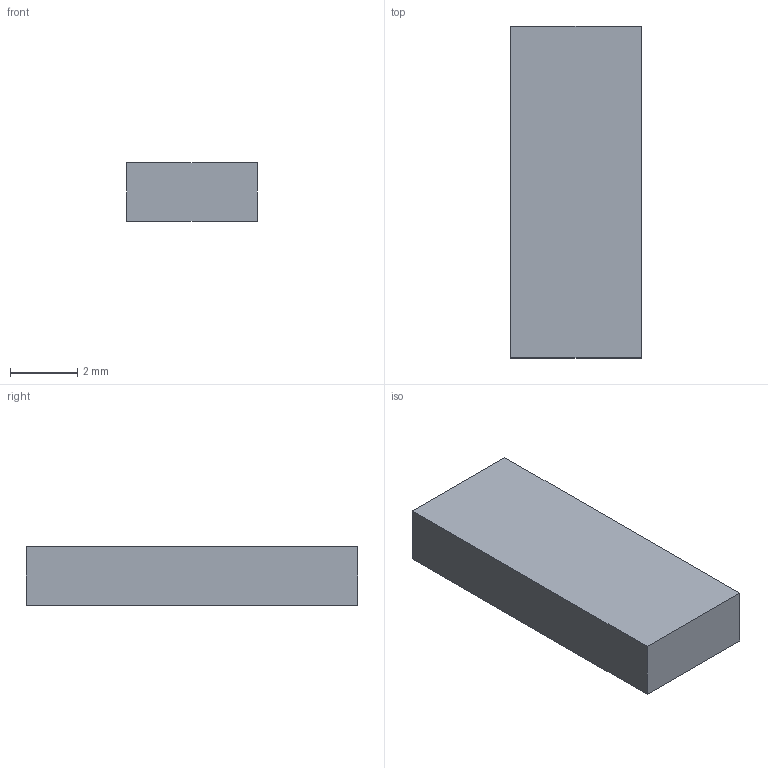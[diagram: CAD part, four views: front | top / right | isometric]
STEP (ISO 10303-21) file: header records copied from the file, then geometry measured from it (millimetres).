
FILE_DESCRIPTION((''),'2;1');
FILE_NAME('SO16_R1','2026-10-06T14:40:36',('line0'),(''),'CREO PARAMETRIC BY PTC INC, 2024344','CREO PARAMETRIC BY PTC INC, 2024344','');
FILE_SCHEMA(('CONFIG_CONTROL_DESIGN'));
Length unit declared in the file: millimetre
Products named in the file (1): SO16_R1
Bounding box: 3.9 x 9.9 x 1.75 mm (x, y, z)
Volume: 67.6 mm3; surface area: 125.5 mm2
Topology: 1 solids, 1 shells, 6 faces, 12 edges, 8 vertices
Faces by surface type: plane 6
Entity records: 194 total; most frequent: CARTESIAN_POINT 26, DIRECTION 24, ORIENTED_EDGE 24, VECTOR 12, LINE 12, EDGE_CURVE 12, VERTEX_POINT 8, AXIS2_PLACEMENT_3D 6
